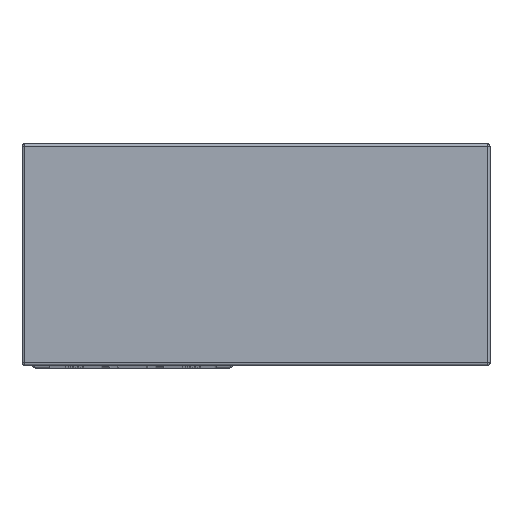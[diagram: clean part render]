
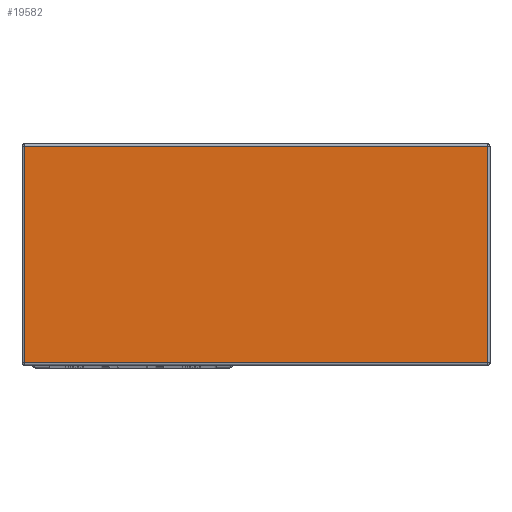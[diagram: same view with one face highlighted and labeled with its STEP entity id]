
A CAD part, top view. The second image highlights one B-rep face of the part: STEP entity #19582.
In plain terms, the highlighted planar face has unit normal (0, 0, 1).
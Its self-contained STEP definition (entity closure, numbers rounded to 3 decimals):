
#64 = VERTEX_POINT ( 'NONE', #8635 ) ;
#332 = LINE ( 'NONE', #6423, #13440 ) ;
#2413 = EDGE_CURVE ( 'NONE', #11553, #27643, #12535, .T. ) ;
#2838 = PLANE ( 'NONE',  #9427 ) ;
#5492 = DIRECTION ( 'NONE',  ( 0., 0., 1. ) ) ;
#5547 = VECTOR ( 'NONE', #23493, 1000. ) ;
#6354 = LINE ( 'NONE', #31337, #5547 ) ;
#6423 = CARTESIAN_POINT ( 'NONE',  ( -45., 44., 621. ) ) ;
#6626 = CARTESIAN_POINT ( 'NONE',  ( 145., -44., 621. ) ) ;
#7107 = LINE ( 'NONE', #13873, #12445 ) ;
#7207 = ORIENTED_EDGE ( 'NONE', *, *, #7528, .T. ) ;
#7528 = EDGE_CURVE ( 'NONE', #25478, #11553, #6354, .T. ) ;
#8106 = ORIENTED_EDGE ( 'NONE', *, *, #2413, .T. ) ;
#8635 = CARTESIAN_POINT ( 'NONE',  ( 144., 44., 621. ) ) ;
#9009 = CARTESIAN_POINT ( 'NONE',  ( 144., -44., 621. ) ) ;
#9071 = DIRECTION ( 'NONE',  ( -1., 0., 0. ) ) ;
#9427 = AXIS2_PLACEMENT_3D ( 'NONE', #23688, #5492, #23814 ) ;
#9677 = CARTESIAN_POINT ( 'NONE',  ( -44., 44., 621. ) ) ;
#11553 = VERTEX_POINT ( 'NONE', #25029 ) ;
#12445 = VECTOR ( 'NONE', #21815, 1000. ) ;
#12535 = LINE ( 'NONE', #6626, #24860 ) ;
#12781 = ORIENTED_EDGE ( 'NONE', *, *, #33870, .T. ) ;
#13440 = VECTOR ( 'NONE', #9071, 1000. ) ;
#13873 = CARTESIAN_POINT ( 'NONE',  ( 144., 45., 621. ) ) ;
#14739 = EDGE_LOOP ( 'NONE', ( #8106, #31271, #12781, #7207 ) ) ;
#19582 = ADVANCED_FACE ( 'NONE', ( #25701 ), #2838, .T. ) ;
#20686 = EDGE_CURVE ( 'NONE', #27643, #64, #7107, .T. ) ;
#21815 = DIRECTION ( 'NONE',  ( 0., 1., 0. ) ) ;
#23493 = DIRECTION ( 'NONE',  ( 0., -1., 0. ) ) ;
#23688 = CARTESIAN_POINT ( 'NONE',  ( 0., 0., 621. ) ) ;
#23814 = DIRECTION ( 'NONE',  ( 1., 0., 0. ) ) ;
#24860 = VECTOR ( 'NONE', #30268, 1000. ) ;
#25029 = CARTESIAN_POINT ( 'NONE',  ( -44., -44., 621. ) ) ;
#25478 = VERTEX_POINT ( 'NONE', #9677 ) ;
#25701 = FACE_OUTER_BOUND ( 'NONE', #14739, .T. ) ;
#27643 = VERTEX_POINT ( 'NONE', #9009 ) ;
#30268 = DIRECTION ( 'NONE',  ( 1., 0., 0. ) ) ;
#31271 = ORIENTED_EDGE ( 'NONE', *, *, #20686, .T. ) ;
#31337 = CARTESIAN_POINT ( 'NONE',  ( -44., -45., 621. ) ) ;
#33870 = EDGE_CURVE ( 'NONE', #64, #25478, #332, .T. ) ;
